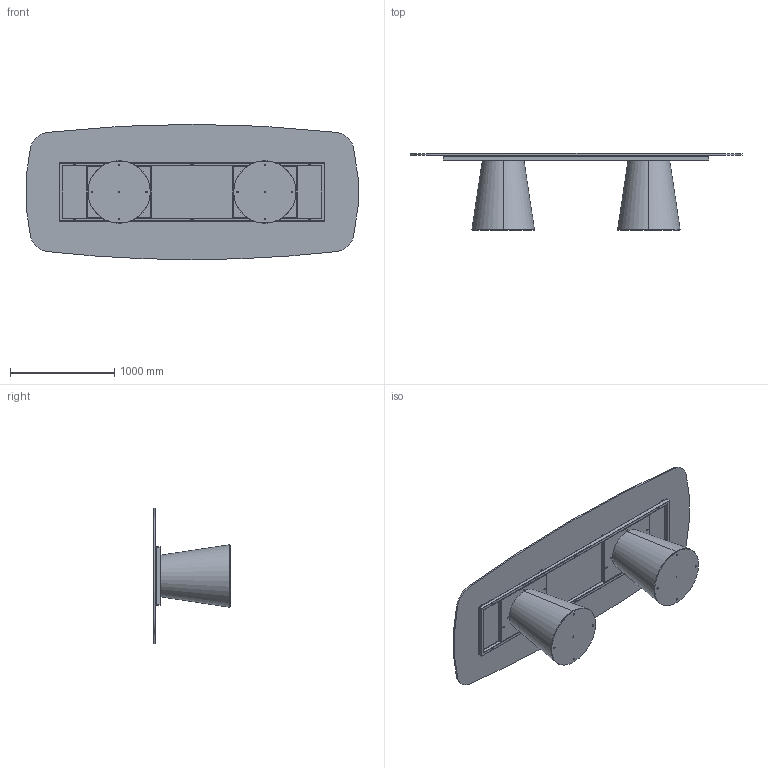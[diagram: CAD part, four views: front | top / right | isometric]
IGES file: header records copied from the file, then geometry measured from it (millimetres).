
Start section: SolidWorks IGES file using analytic representation for surfaces
Global section: file name: Y:\eforma\TECNICO\SOLIDWORKS\E-FORMA\1-TAVOLI\TEO\08 modelli 3D web\TO46G_Teo_320x130_Glass Shaped.IGS; native system: SolidWorks 2022; preprocessor: SolidWorks 2022; author: eforma.tech; date: 240802.114142; units: millimetre
Bounding box: 3189.57 x 738.19 x 1300 mm (x, y, z)
Volume: 118571886.6 mm3; surface area: 17497695.9 mm2
Topology: 32 solids, 32 shells, 863 faces, 1955 edges, 1146 vertices
Faces by surface type: revolution 441, plane 422
